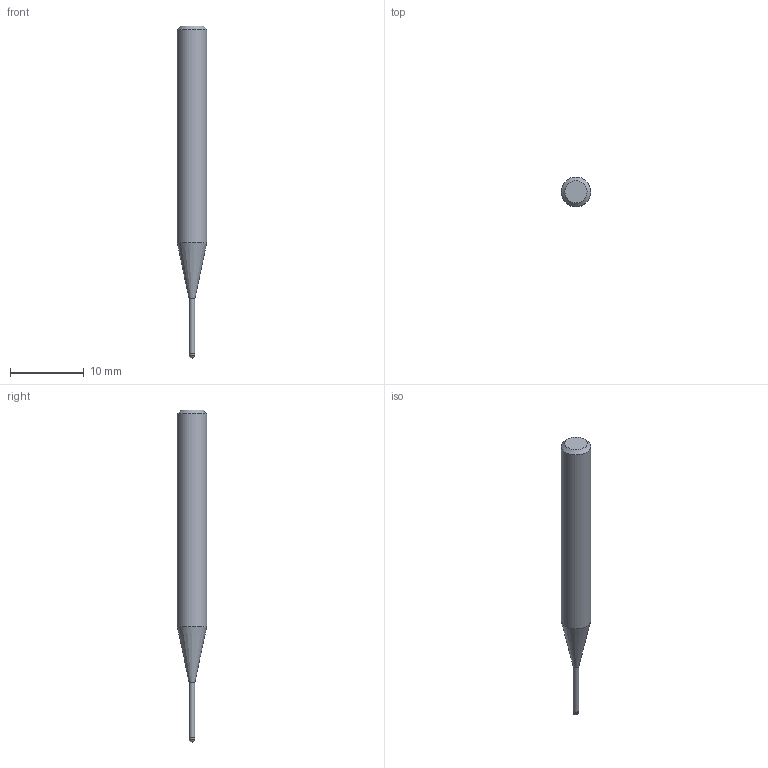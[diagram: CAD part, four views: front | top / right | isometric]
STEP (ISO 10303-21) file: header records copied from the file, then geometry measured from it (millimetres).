
FILE_DESCRIPTION((''),'2;1');
FILE_NAME('C:\Users\nsx150\AppData\Local\Temp\Mastercam 2021\ZXBT0ST9RL\TEMP.step','2021-06-25T11:02:46',(''),(''),'STEP Write','Mastercam 2021 ... CNC Software, Inc.','');
FILE_SCHEMA(('AUTOMOTIVE_DESIGN'));
Length unit declared in the file: millimetre
Products named in the file (1): None
Bounding box: 4 x 4 x 45 mm (x, y, z)
Volume: 410.5 mm3; surface area: 456.1 mm2
Topology: 2 solids, 2 shells, 9 faces, 14 edges, 8 vertices
Faces by surface type: plane 3, cylinder 3, cone 2, sphere 1
Full cylindrical faces by diameter (mm): 0.76 x1, 0.8 x1, 4 x1
Entity records: 211 total; most frequent: DIRECTION 36, CARTESIAN_POINT 25, AXIS2_PLACEMENT_3D 18, ORIENTED_EDGE 14, EDGE_LOOP 14, STYLED_ITEM 12, ADVANCED_FACE 9, FACE_BOUND 8
